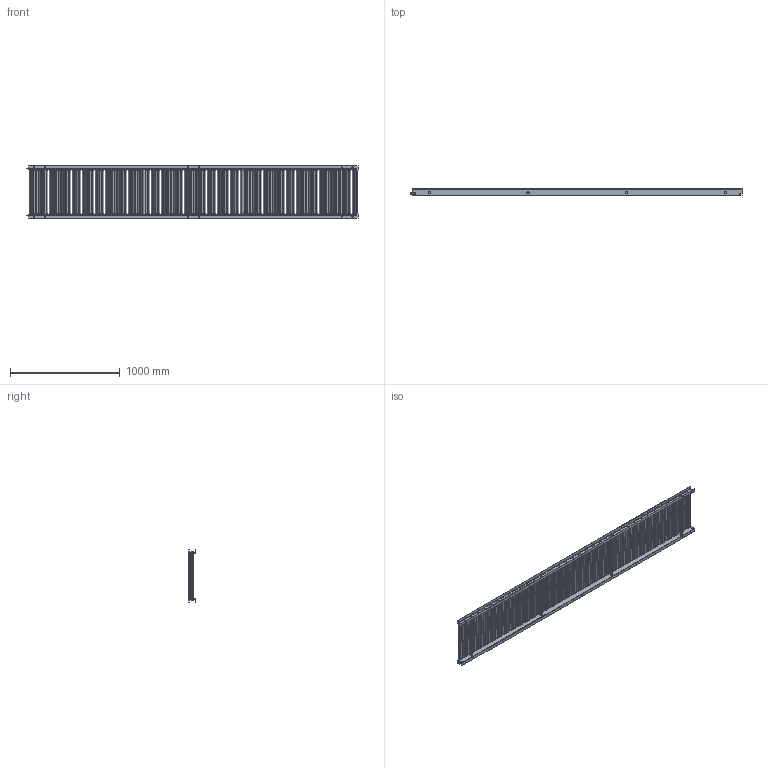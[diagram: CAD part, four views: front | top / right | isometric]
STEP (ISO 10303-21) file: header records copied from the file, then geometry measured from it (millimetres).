
FILE_DESCRIPTION (( 'STEP AP203' ), '1' );
FILE_NAME ('RZ-1912P.step', '2024-02-26T06:40:09', ( '' ), ( '' ), 'SwSTEP 2.0', 'SolidWorks 2023', '' );
FILE_SCHEMA (( 'CONFIG_CONTROL_DESIGN' ));
Length unit declared in the file: millimetre
Products named in the file (1): RZ-1912P
Bounding box: 3025 x 61.55 x 475 mm (x, y, z)
Volume: 12714812.8 mm3; surface area: 6251448.7 mm2
Topology: 224 solids, 224 shells, 3420 faces, 7812 edges, 5048 vertices
Faces by surface type: cylinder 1712, plane 1260, torus 400, cone 48
Entity records: 99871 total; most frequent: DIRECTION 19198, CARTESIAN_POINT 16953, ORIENTED_EDGE 15624, AXIS2_PLACEMENT_3D 8093, EDGE_CURVE 7812, VERTEX_POINT 5048, CIRCLE 4672, EDGE_LOOP 4492
